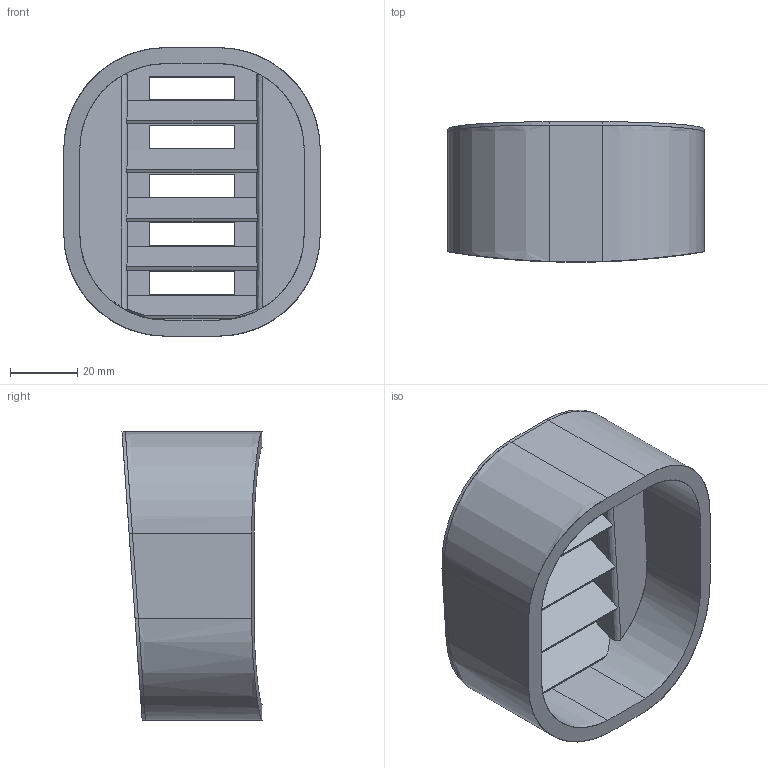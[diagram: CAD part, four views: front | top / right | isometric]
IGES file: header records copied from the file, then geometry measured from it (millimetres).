
Start section: 3D InterOp IGES (Version 21 0 3), Spatial Corp. Copyright (c) 1999-2007.
Global section: file name: CSR Center Vent Assy Bottom - 20140502.igs; native system: Spatial Corp.; preprocessor: 3D InterOp GENERIC/IGES 3.0; author: Noname; organization: Noname; date: 20140502.161219; units: inch
Bounding box: 76.2 x 41.61 x 85.79 mm (x, y, z)
Surface area: 44358.4 mm2 (no closed solid volume)
Topology: 0 solids, 0 shells, 196 faces, 1068 edges, 1068 vertices
Faces by surface type: extrusion 173, revolution 19, bspline 4
